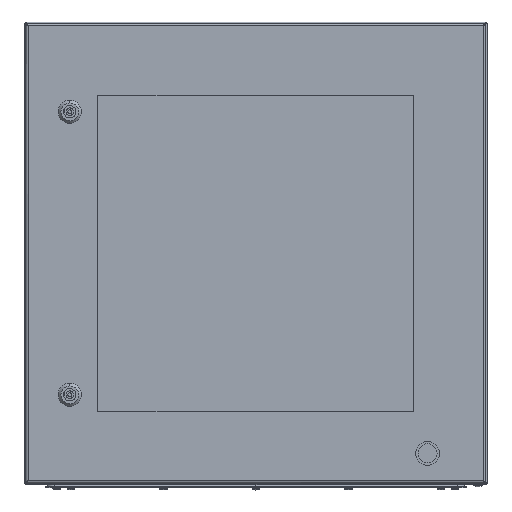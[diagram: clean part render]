
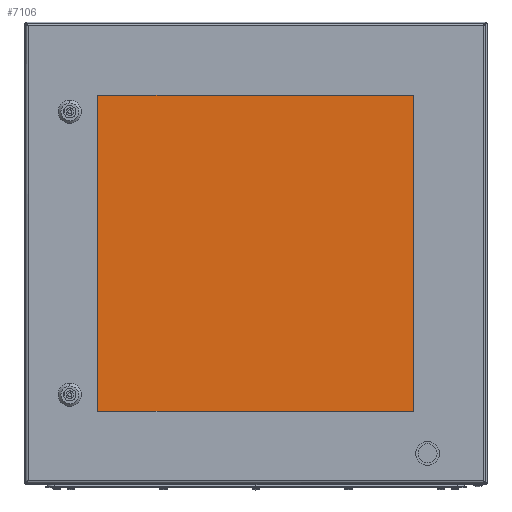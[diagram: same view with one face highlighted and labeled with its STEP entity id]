
A CAD part, top view. The second image highlights one B-rep face of the part: STEP entity #7106.
In plain terms, the highlighted planar face has unit normal (0, 0, 1).
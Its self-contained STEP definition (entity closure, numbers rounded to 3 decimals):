
#1421 = CIRCLE ( 'NONE', #50812, 1. ) ;
#2052 = LINE ( 'NONE', #22773, #24149 ) ;
#2262 = AXIS2_PLACEMENT_3D ( 'NONE', #32941, #36072, #27989 ) ;
#2653 = CARTESIAN_POINT ( 'NONE',  ( 214., 215., 2. ) ) ;
#2832 = DIRECTION ( 'NONE',  ( 1., 0., 0. ) ) ;
#3758 = DIRECTION ( 'NONE',  ( 1., 0., 0. ) ) ;
#3809 = DIRECTION ( 'NONE',  ( 1., 0., 0. ) ) ;
#3977 = DIRECTION ( 'NONE',  ( 0., -1., 0. ) ) ;
#5046 = ORIENTED_EDGE ( 'NONE', *, *, #30179, .T. ) ;
#5821 = DIRECTION ( 'NONE',  ( 1., 0., 0. ) ) ;
#7106 = ADVANCED_FACE ( 'NONE', ( #44737 ), #47897, .T. ) ;
#7950 = ORIENTED_EDGE ( 'NONE', *, *, #9131, .T. ) ;
#7984 = CARTESIAN_POINT ( 'NONE',  ( -214., -215., 2. ) ) ;
#9131 = EDGE_CURVE ( 'NONE', #44617, #13157, #1421, .T. ) ;
#9249 = VERTEX_POINT ( 'NONE', #26018 ) ;
#9548 = EDGE_CURVE ( 'NONE', #20166, #51285, #39106, .T. ) ;
#11177 = LINE ( 'NONE', #23530, #31471 ) ;
#11293 = EDGE_CURVE ( 'NONE', #13134, #20166, #39898, .T. ) ;
#12690 = EDGE_CURVE ( 'NONE', #51285, #44617, #2052, .T. ) ;
#13134 = VERTEX_POINT ( 'NONE', #42274 ) ;
#13157 = VERTEX_POINT ( 'NONE', #43055 ) ;
#14365 = VERTEX_POINT ( 'NONE', #2653 ) ;
#15760 = CARTESIAN_POINT ( 'NONE',  ( -214., -214., 2. ) ) ;
#16013 = DIRECTION ( 'NONE',  ( 0., 0., 1. ) ) ;
#16406 = ORIENTED_EDGE ( 'NONE', *, *, #34185, .T. ) ;
#16499 = AXIS2_PLACEMENT_3D ( 'NONE', #15760, #16013, #24674 ) ;
#18734 = CARTESIAN_POINT ( 'NONE',  ( -214., 215., 2. ) ) ;
#19978 = CARTESIAN_POINT ( 'NONE',  ( -215., -215., 2. ) ) ;
#20166 = VERTEX_POINT ( 'NONE', #32667 ) ;
#20318 = CARTESIAN_POINT ( 'NONE',  ( -214., 214., 2. ) ) ;
#21781 = VERTEX_POINT ( 'NONE', #18734 ) ;
#21842 = DIRECTION ( 'NONE',  ( 0., 0., 1. ) ) ;
#21935 = ORIENTED_EDGE ( 'NONE', *, *, #31981, .T. ) ;
#22773 = CARTESIAN_POINT ( 'NONE',  ( 215., -215., 2. ) ) ;
#23530 = CARTESIAN_POINT ( 'NONE',  ( 215., 215., 2. ) ) ;
#23705 = DIRECTION ( 'NONE',  ( 0., 0., 1. ) ) ;
#24149 = VECTOR ( 'NONE', #2832, 1000. ) ;
#24674 = DIRECTION ( 'NONE',  ( 1., 0., 0. ) ) ;
#26018 = CARTESIAN_POINT ( 'NONE',  ( 215., 214., 2. ) ) ;
#27200 = DIRECTION ( 'NONE',  ( -1., 0., 0. ) ) ;
#27673 = DIRECTION ( 'NONE',  ( 0., 0., 1. ) ) ;
#27742 = LINE ( 'NONE', #40050, #43955 ) ;
#27989 = DIRECTION ( 'NONE',  ( 1., 0., 0. ) ) ;
#30179 = EDGE_CURVE ( 'NONE', #14365, #21781, #11177, .T. ) ;
#31471 = VECTOR ( 'NONE', #27200, 1000. ) ;
#31797 = CARTESIAN_POINT ( 'NONE',  ( 214., 214., 2. ) ) ;
#31858 = CIRCLE ( 'NONE', #51099, 1. ) ;
#31981 = EDGE_CURVE ( 'NONE', #21781, #13134, #40427, .T. ) ;
#32640 = EDGE_LOOP ( 'NONE', ( #49364, #48247, #51746, #7950, #16406, #44921, #5046, #21935 ) ) ;
#32667 = CARTESIAN_POINT ( 'NONE',  ( -215., -214., 2. ) ) ;
#32941 = CARTESIAN_POINT ( 'NONE',  ( 0., 0., 2. ) ) ;
#33853 = AXIS2_PLACEMENT_3D ( 'NONE', #20318, #27673, #3809 ) ;
#34185 = EDGE_CURVE ( 'NONE', #13157, #9249, #27742, .T. ) ;
#36072 = DIRECTION ( 'NONE',  ( 0., 0., 1. ) ) ;
#37777 = CARTESIAN_POINT ( 'NONE',  ( 214., -214., 2. ) ) ;
#39098 = VECTOR ( 'NONE', #3977, 1000. ) ;
#39106 = CIRCLE ( 'NONE', #16499, 1. ) ;
#39898 = LINE ( 'NONE', #19978, #39098 ) ;
#40050 = CARTESIAN_POINT ( 'NONE',  ( 215., -215., 2. ) ) ;
#40427 = CIRCLE ( 'NONE', #33853, 1. ) ;
#40741 = DIRECTION ( 'NONE',  ( 0., 1., 0. ) ) ;
#42274 = CARTESIAN_POINT ( 'NONE',  ( -215., 214., 2. ) ) ;
#43055 = CARTESIAN_POINT ( 'NONE',  ( 215., -214., 2. ) ) ;
#43397 = EDGE_CURVE ( 'NONE', #9249, #14365, #31858, .T. ) ;
#43955 = VECTOR ( 'NONE', #40741, 1000. ) ;
#44617 = VERTEX_POINT ( 'NONE', #46416 ) ;
#44737 = FACE_OUTER_BOUND ( 'NONE', #32640, .T. ) ;
#44921 = ORIENTED_EDGE ( 'NONE', *, *, #43397, .T. ) ;
#46416 = CARTESIAN_POINT ( 'NONE',  ( 214., -215., 2. ) ) ;
#47897 = PLANE ( 'NONE',  #2262 ) ;
#48247 = ORIENTED_EDGE ( 'NONE', *, *, #9548, .T. ) ;
#49364 = ORIENTED_EDGE ( 'NONE', *, *, #11293, .T. ) ;
#50812 = AXIS2_PLACEMENT_3D ( 'NONE', #37777, #21842, #5821 ) ;
#51099 = AXIS2_PLACEMENT_3D ( 'NONE', #31797, #23705, #3758 ) ;
#51285 = VERTEX_POINT ( 'NONE', #7984 ) ;
#51746 = ORIENTED_EDGE ( 'NONE', *, *, #12690, .T. ) ;
